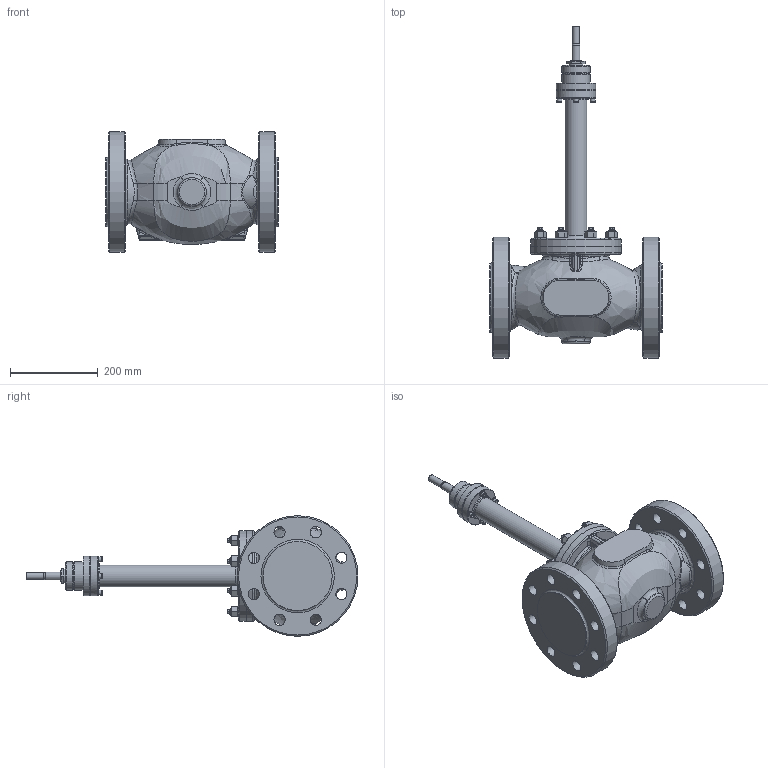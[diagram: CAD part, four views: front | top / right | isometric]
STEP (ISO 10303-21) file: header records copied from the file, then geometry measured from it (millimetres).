
FILE_DESCRIPTION(/* description */ (''),/* implementation_level */ '2;1');
FILE_NAME(/* name */ 'CV3xx_NPS_4_priruba_CL600_vlnovec.stp',/* time_stamp */ '2015-08-11T10:05:20+02:00',/* author */ (''),/* organization */ (''),/* preprocessor_version */ 'ST-DEVELOPER v15',/* originating_system */ 'SIEMENS PLM Software NX 8.5',/* authorisation */ '');
FILE_SCHEMA (('AP203_CONFIGURATION_CONTROLLED_3D_DESIGN_OF_MECHANICAL_PARTS_AND_ASSEMBLIES_MIM_LF { 1 0 10303 403 2 1 2}'));
Length unit declared in the file: millimetre
Products named in the file (1): adam1354300Cul67
Bounding box: 394 x 756.5 x 275 mm (x, y, z)
Volume: 15720036.5 mm3; surface area: 716957.6 mm2
Topology: 1 solids, 1 shells, 772 faces, 1790 edges, 1067 vertices
Faces by surface type: plane 250, cone 195, cylinder 170, bspline 92, torus 53, sphere 12
Full cylindrical faces by diameter (mm): 7 x4, 7.76 x4, 9 x4, 11.64 x4, 12.5 x8, 16 x25, 18 x9, 24 x16, 25.4 x16, 27 x1, 33 x1, 50 x1, 50.3 x2, 55 x1, 58 x1, 61.6 x1, 64 x1, 65 x2, 90 x2, 140 x1, 157.2 x2, 206 x2, 275 x2
Entity records: 23738 total; most frequent: CARTESIAN_POINT 8209, DIRECTION 3059, ORIENTED_EDGE 3046, EDGE_CURVE 1523, AXIS2_PLACEMENT_3D 1356, EDGE_LOOP 1069, VERTEX_POINT 987, ADVANCED_FACE 772
